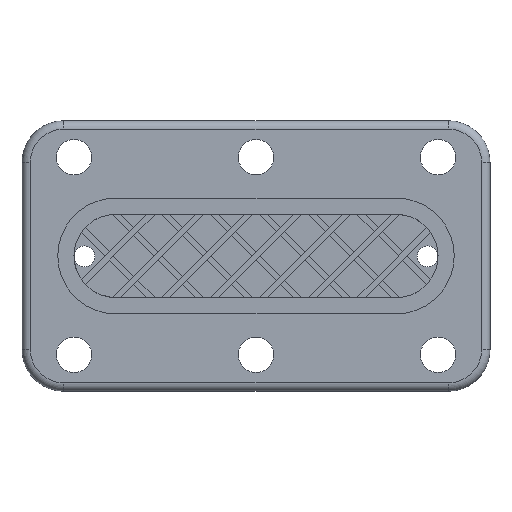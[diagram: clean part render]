
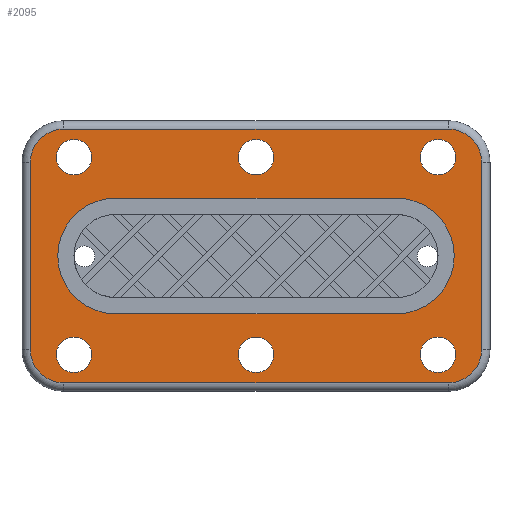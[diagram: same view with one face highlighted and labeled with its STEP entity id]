
A CAD part, top view. The second image highlights one B-rep face of the part: STEP entity #2095.
In plain terms, the highlighted planar face has unit normal (0, 0, 1).
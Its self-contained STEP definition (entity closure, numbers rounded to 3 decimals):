
#40=FACE_BOUND('',#728,.T.);
#41=FACE_BOUND('',#729,.T.);
#42=FACE_BOUND('',#730,.T.);
#43=FACE_BOUND('',#731,.T.);
#44=FACE_BOUND('',#732,.T.);
#45=FACE_BOUND('',#733,.T.);
#46=FACE_BOUND('',#734,.T.);
#67=PLANE('',#2303);
#151=LINE('',#3190,#363);
#153=LINE('',#3202,#365);
#155=LINE('',#3213,#367);
#156=LINE('',#3219,#368);
#158=LINE('',#3239,#370);
#159=LINE('',#3242,#371);
#363=VECTOR('',#2567,10.);
#365=VECTOR('',#2581,10.);
#367=VECTOR('',#2595,10.);
#368=VECTOR('',#2604,10.);
#370=VECTOR('',#2624,10.);
#371=VECTOR('',#2627,10.);
#609=FACE_OUTER_BOUND('',#727,.T.);
#727=EDGE_LOOP('',(#1552,#1553,#1554,#1555,#1556,#1557,#1558,#1559));
#728=EDGE_LOOP('',(#1560));
#729=EDGE_LOOP('',(#1561));
#730=EDGE_LOOP('',(#1562));
#731=EDGE_LOOP('',(#1563));
#732=EDGE_LOOP('',(#1564));
#733=EDGE_LOOP('',(#1565));
#734=EDGE_LOOP('',(#1566,#1567,#1568,#1569));
#871=CIRCLE('',#2282,3.2);
#876=CIRCLE('',#2289,3.2);
#880=CIRCLE('',#2295,3.2);
#883=CIRCLE('',#2300,3.2);
#884=CIRCLE('',#2304,1.7);
#885=CIRCLE('',#2305,1.7);
#886=CIRCLE('',#2306,1.7);
#887=CIRCLE('',#2307,1.7);
#888=CIRCLE('',#2308,1.7);
#889=CIRCLE('',#2309,1.7);
#890=CIRCLE('',#2310,5.56);
#891=CIRCLE('',#2311,5.56);
#970=VERTEX_POINT('',#3182);
#971=VERTEX_POINT('',#3184);
#972=VERTEX_POINT('',#3188);
#973=VERTEX_POINT('',#3192);
#975=VERTEX_POINT('',#3198);
#977=VERTEX_POINT('',#3204);
#979=VERTEX_POINT('',#3210);
#980=VERTEX_POINT('',#3215);
#981=VERTEX_POINT('',#3223);
#982=VERTEX_POINT('',#3225);
#983=VERTEX_POINT('',#3227);
#984=VERTEX_POINT('',#3229);
#985=VERTEX_POINT('',#3231);
#986=VERTEX_POINT('',#3233);
#987=VERTEX_POINT('',#3235);
#988=VERTEX_POINT('',#3236);
#989=VERTEX_POINT('',#3238);
#990=VERTEX_POINT('',#3240);
#1185=EDGE_CURVE('',#970,#971,#871,.T.);
#1188=EDGE_CURVE('',#971,#972,#151,.T.);
#1191=EDGE_CURVE('',#972,#973,#876,.T.);
#1194=EDGE_CURVE('',#973,#975,#153,.T.);
#1197=EDGE_CURVE('',#975,#977,#880,.T.);
#1200=EDGE_CURVE('',#977,#979,#155,.T.);
#1202=EDGE_CURVE('',#979,#980,#883,.T.);
#1203=EDGE_CURVE('',#980,#970,#156,.T.);
#1205=EDGE_CURVE('',#981,#981,#884,.T.);
#1206=EDGE_CURVE('',#982,#982,#885,.T.);
#1207=EDGE_CURVE('',#983,#983,#886,.T.);
#1208=EDGE_CURVE('',#984,#984,#887,.T.);
#1209=EDGE_CURVE('',#985,#985,#888,.T.);
#1210=EDGE_CURVE('',#986,#986,#889,.T.);
#1211=EDGE_CURVE('',#987,#988,#890,.T.);
#1212=EDGE_CURVE('',#988,#989,#158,.T.);
#1213=EDGE_CURVE('',#989,#990,#891,.T.);
#1214=EDGE_CURVE('',#990,#987,#159,.T.);
#1552=ORIENTED_EDGE('',*,*,#1185,.F.);
#1553=ORIENTED_EDGE('',*,*,#1203,.F.);
#1554=ORIENTED_EDGE('',*,*,#1202,.F.);
#1555=ORIENTED_EDGE('',*,*,#1200,.F.);
#1556=ORIENTED_EDGE('',*,*,#1197,.F.);
#1557=ORIENTED_EDGE('',*,*,#1194,.F.);
#1558=ORIENTED_EDGE('',*,*,#1191,.F.);
#1559=ORIENTED_EDGE('',*,*,#1188,.F.);
#1560=ORIENTED_EDGE('',*,*,#1205,.T.);
#1561=ORIENTED_EDGE('',*,*,#1206,.T.);
#1562=ORIENTED_EDGE('',*,*,#1207,.T.);
#1563=ORIENTED_EDGE('',*,*,#1208,.T.);
#1564=ORIENTED_EDGE('',*,*,#1209,.T.);
#1565=ORIENTED_EDGE('',*,*,#1210,.T.);
#1566=ORIENTED_EDGE('',*,*,#1211,.T.);
#1567=ORIENTED_EDGE('',*,*,#1212,.T.);
#1568=ORIENTED_EDGE('',*,*,#1213,.T.);
#1569=ORIENTED_EDGE('',*,*,#1214,.T.);
#2095=ADVANCED_FACE('',(#609,#40,#41,#42,#43,#44,#45,#46),#67,.T.);
#2282=AXIS2_PLACEMENT_3D('',#3185,#2559,#2560);
#2289=AXIS2_PLACEMENT_3D('',#3196,#2574,#2575);
#2295=AXIS2_PLACEMENT_3D('',#3208,#2588,#2589);
#2300=AXIS2_PLACEMENT_3D('',#3217,#2600,#2601);
#2303=AXIS2_PLACEMENT_3D('',#3222,#2608,#2609);
#2304=AXIS2_PLACEMENT_3D('',#3224,#2610,#2611);
#2305=AXIS2_PLACEMENT_3D('',#3226,#2612,#2613);
#2306=AXIS2_PLACEMENT_3D('',#3228,#2614,#2615);
#2307=AXIS2_PLACEMENT_3D('',#3230,#2616,#2617);
#2308=AXIS2_PLACEMENT_3D('',#3232,#2618,#2619);
#2309=AXIS2_PLACEMENT_3D('',#3234,#2620,#2621);
#2310=AXIS2_PLACEMENT_3D('',#3237,#2622,#2623);
#2311=AXIS2_PLACEMENT_3D('',#3241,#2625,#2626);
#2559=DIRECTION('center_axis',(0.,0.,
-1.));
#2560=DIRECTION('ref_axis',(-0.707,-0.707,0.));
#2567=DIRECTION('',(0.,1.,0.));
#2574=DIRECTION('center_axis',(0.,0.,
-1.));
#2575=DIRECTION('ref_axis',(-0.707,0.707,0.));
#2581=DIRECTION('',(1.,0.,0.));
#2588=DIRECTION('center_axis',(0.,0.,
-1.));
#2589=DIRECTION('ref_axis',(0.707,0.707,0.));
#2595=DIRECTION('',(0.,-1.,0.));
#2600=DIRECTION('center_axis',(0.,0.,
-1.));
#2601=DIRECTION('ref_axis',(0.707,-0.707,0.));
#2604=DIRECTION('',(-1.,0.,0.));
#2608=DIRECTION('center_axis',(0.,0.,
1.));
#2609=DIRECTION('ref_axis',(1.,0.,0.));
#2610=DIRECTION('center_axis',(0.,0.,
-1.));
#2611=DIRECTION('ref_axis',(1.,0.,0.));
#2612=DIRECTION('center_axis',(0.,0.,
-1.));
#2613=DIRECTION('ref_axis',(1.,0.,0.));
#2614=DIRECTION('center_axis',(0.,0.,
-1.));
#2615=DIRECTION('ref_axis',(1.,0.,0.));
#2616=DIRECTION('center_axis',(0.,0.,
-1.));
#2617=DIRECTION('ref_axis',(1.,0.,0.));
#2618=DIRECTION('center_axis',(0.,0.,
-1.));
#2619=DIRECTION('ref_axis',(1.,0.,0.));
#2620=DIRECTION('center_axis',(0.,0.,
-1.));
#2621=DIRECTION('ref_axis',(1.,0.,0.));
#2622=DIRECTION('center_axis',(0.,0.,
-1.));
#2623=DIRECTION('ref_axis',(0.,-1.,0.));
#2624=DIRECTION('',(-1.,0.,0.));
#2625=DIRECTION('center_axis',(0.,0.,
-1.));
#2626=DIRECTION('ref_axis',(0.,1.,0.));
#2627=DIRECTION('',(1.,0.,0.));
#3182=CARTESIAN_POINT('',(4.,0.8,3.));
#3184=CARTESIAN_POINT('',(0.8,4.,3.));
#3185=CARTESIAN_POINT('Origin',(4.,4.,3.));
#3188=CARTESIAN_POINT('',(0.8,22.,3.));
#3190=CARTESIAN_POINT('',(0.8,6.5,3.));
#3192=CARTESIAN_POINT('',(4.,25.2,3.));
#3196=CARTESIAN_POINT('Origin',(4.,22.,3.));
#3198=CARTESIAN_POINT('',(41.,25.2,3.));
#3202=CARTESIAN_POINT('',(11.25,25.2,3.));
#3204=CARTESIAN_POINT('',(44.2,22.,3.));
#3208=CARTESIAN_POINT('Origin',(41.,22.,3.));
#3210=CARTESIAN_POINT('',(44.2,4.,3.));
#3213=CARTESIAN_POINT('',(44.2,19.5,3.));
#3215=CARTESIAN_POINT('',(41.,0.8,3.));
#3217=CARTESIAN_POINT('Origin',(41.,4.,3.));
#3219=CARTESIAN_POINT('',(33.75,0.8,3.));
#3222=CARTESIAN_POINT('Origin',(22.5,13.,3.));
#3223=CARTESIAN_POINT('',(38.3,22.5,3.));
#3224=CARTESIAN_POINT('Origin',(40.,22.5,3.));
#3225=CARTESIAN_POINT('',(20.8,3.5,3.));
#3226=CARTESIAN_POINT('Origin',(22.5,3.5,3.));
#3227=CARTESIAN_POINT('',(20.8,22.5,3.));
#3228=CARTESIAN_POINT('Origin',(22.5,22.5,3.));
#3229=CARTESIAN_POINT('',(3.3,22.5,3.));
#3230=CARTESIAN_POINT('Origin',(5.,22.5,3.));
#3231=CARTESIAN_POINT('',(3.3,3.5,3.));
#3232=CARTESIAN_POINT('Origin',(5.,3.5,3.));
#3233=CARTESIAN_POINT('',(38.3,3.5,3.));
#3234=CARTESIAN_POINT('Origin',(40.,3.5,3.));
#3235=CARTESIAN_POINT('',(36.,18.56,3.));
#3236=CARTESIAN_POINT('',(36.,7.44,3.));
#3237=CARTESIAN_POINT('Origin',(36.,13.,3.));
#3238=CARTESIAN_POINT('',(9.,7.44,3.));
#3239=CARTESIAN_POINT('',(15.75,7.44,3.));
#3240=CARTESIAN_POINT('',(9.,18.56,3.));
#3241=CARTESIAN_POINT('Origin',(9.,13.,3.));
#3242=CARTESIAN_POINT('',(29.25,18.56,3.));
